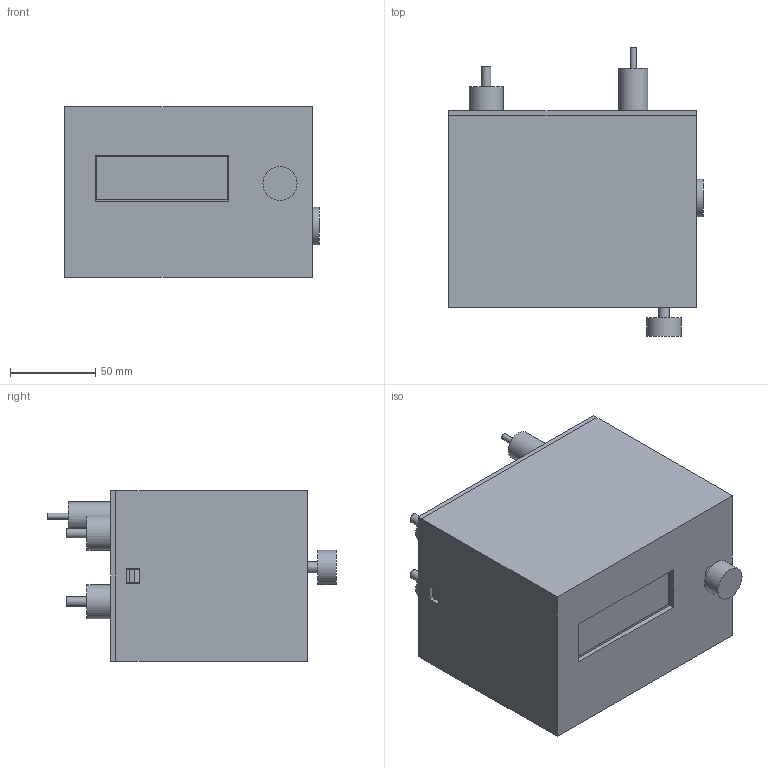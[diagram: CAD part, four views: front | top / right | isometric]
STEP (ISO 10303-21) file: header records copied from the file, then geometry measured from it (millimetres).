
FILE_DESCRIPTION(('Open CASCADE Model'),'2;1');
FILE_NAME('Open CASCADE Shape Model','2026-11-04T20:36:24',('Author'),( 'Open CASCADE'),'Open CASCADE STEP processor 7.8','Open CASCADE 7.8' ,'Unknown');
FILE_SCHEMA(('AUTOMOTIVE_DESIGN { 1 0 10303 214 1 1 1 1 }'));
Length unit declared in the file: millimetre
Products named in the file (75): Laboratory_controller_fit_study_03_Rails_USB; 01_Pieces_imprimees; 01_Main_shell_with_LCD_and_A_clips; 02_B_removable_carrier_with_clips; 03_Rear_panel_with_latches; 02_Carte_A_reference; PCB_A; A_U1_ENVELOPE; A_U2_ENVELOPE; A_J1_ENVELOPE; A_J6_ENVELOPE; A_J7_ENVELOPE; A_J2_ENVELOPE; A_J3_ENVELOPE; A_J4_ENVELOPE; A_J5_ENVELOPE; A_JP1_ENVELOPE; A_C1_ENVELOPE; A_C2_ENVELOPE; A_C3_ENVELOPE; A_R1_ENVELOPE; A_R2_ENVELOPE; A_R3_ENVELOPE; A_R4_ENVELOPE; A_R5_ENVELOPE; 03_Carte_B_reference; PCB_B; B_U1_ENVELOPE; B_U2_ENVELOPE; B_U3_ENVELOPE; B_U4_ENVELOPE; B_Q1_ENVELOPE; B_F1_ENVELOPE; B_D1_ENVELOPE; B_D2_ENVELOPE; B_J2_ENVELOPE; B_J3_ENVELOPE; B_J4_ENVELOPE; B_J1_ENVELOPE; B_J6_ENVELOPE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
Assembly tree (74 placements, depth 3):
  Laboratory_controller_fit_study_03_Rails_USB
    01_Pieces_imprimees
      01_Main_shell_with_LCD_and_A_clips
      02_B_removable_carrier_with_clips
      03_Rear_panel_with_latches
    02_Carte_A_reference
      PCB_A
      A_U1_ENVELOPE
      A_U2_ENVELOPE
      A_J1_ENVELOPE
      A_J6_ENVELOPE
      A_J7_ENVELOPE
      A_J2_ENVELOPE
      A_J3_ENVELOPE
      A_J4_ENVELOPE
      A_J5_ENVELOPE
      A_JP1_ENVELOPE
      A_C1_ENVELOPE
      A_C2_ENVELOPE
      A_C3_ENVELOPE
      A_R1_ENVELOPE
      A_R2_ENVELOPE
      A_R3_ENVELOPE
      A_R4_ENVELOPE
      A_R5_ENVELOPE
    03_Carte_B_reference
      PCB_B
      B_U1_ENVELOPE
      B_U2_ENVELOPE
      B_U3_ENVELOPE
      B_U4_ENVELOPE
      B_Q1_ENVELOPE
      B_F1_ENVELOPE
      B_D1_ENVELOPE
      B_D2_ENVELOPE
      B_J2_ENVELOPE
      B_J3_ENVELOPE
      B_J4_ENVELOPE
      B_J1_ENVELOPE
      B_J6_ENVELOPE
      B_J7_ENVELOPE
      B_C1_ENVELOPE
      B_C2_ENVELOPE
      B_C3_ENVELOPE
      B_C4_ENVELOPE
      B_C5_ENVELOPE
      B_R1_ENVELOPE
      B_R2_ENVELOPE
      B_R3_ENVELOPE
      B_R4_ENVELOPE
      B_R5_ENVELOPE
      B_R6_ENVELOPE
      B_R7_ENVELOPE
    04_Afficheur_encodeur_reference
      LCD_PCB_98x60_TBD
      LCD_front_bezel_TBD
      LCD_backpack_TBD
      LCD_visible_screen
      Encoder_body_TBD
      Encoder_shaft
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Bounding box: 149 x 169 x 100 mm (x, y, z)
Volume: 451005.2 mm3; surface area: 302183.1 mm2
Topology: 68 solids, 68 shells, 747 faces, 1720 edges, 1135 vertices
Faces by surface type: plane 702, cylinder 45
Full cylindrical faces by diameter (mm): 2.2 x12, 3 x3, 3.5 x1, 4.3 x1, 5.5 x2, 6.3 x2, 6.4 x1, 7.2 x1, 8 x1, 12 x6, 12.4 x1, 12.5 x2, 15 x2, 16 x1, 17 x2, 20 x5, 22 x2
Entity records: 44512 total; most frequent: CARTESIAN_POINT 8098, DIRECTION 6207, LINE 4232, VECTOR 4232, ORIENTED_EDGE 3440, PCURVE 3440, DEFINITIONAL_REPRESENTATION 3440, EDGE_CURVE 1720
